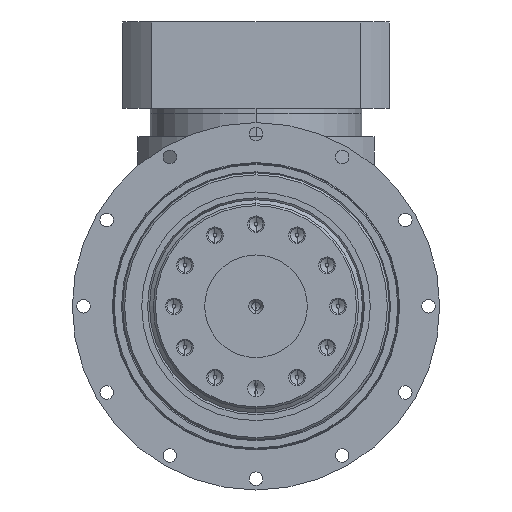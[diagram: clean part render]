
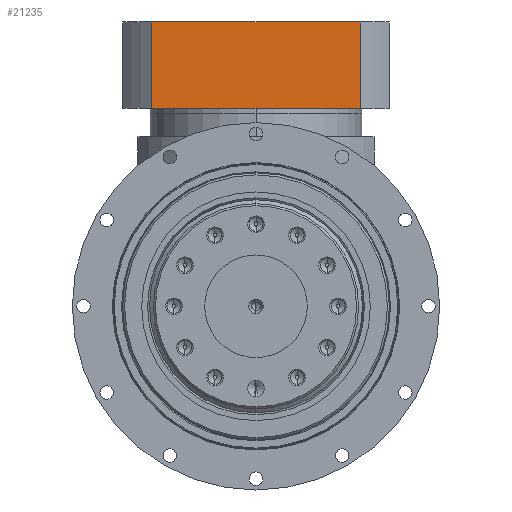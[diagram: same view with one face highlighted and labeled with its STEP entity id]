
A CAD part, left-side view. The second image highlights one B-rep face of the part: STEP entity #21235.
In plain terms, the highlighted planar face has unit normal (-1, 0, 0).
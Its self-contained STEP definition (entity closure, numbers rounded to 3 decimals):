
#1383 = VECTOR ( 'NONE', #5073, 1000. ) ;
#1825 = EDGE_CURVE ( 'NONE', #6613, #7438, #15641, .T. ) ;
#3000 = CARTESIAN_POINT ( 'NONE',  ( 64., 50.806, 138.5 ) ) ;
#3086 = LINE ( 'NONE', #18476, #10947 ) ;
#3507 = LINE ( 'NONE', #10354, #1383 ) ;
#4165 = LINE ( 'NONE', #11781, #25024 ) ;
#5073 = DIRECTION ( 'NONE',  ( 0., 0., 1. ) ) ;
#6613 = VERTEX_POINT ( 'NONE', #3000 ) ;
#7037 = CARTESIAN_POINT ( 'NONE',  ( 64., 65., -139.179 ) ) ;
#7438 = VERTEX_POINT ( 'NONE', #22449 ) ;
#8553 = ORIENTED_EDGE ( 'NONE', *, *, #10120, .T. ) ;
#8883 = DIRECTION ( 'NONE',  ( -1., 0., 0. ) ) ;
#10120 = EDGE_CURVE ( 'NONE', #10228, #18056, #3507, .T. ) ;
#10228 = VERTEX_POINT ( 'NONE', #11206 ) ;
#10354 = CARTESIAN_POINT ( 'NONE',  ( 64., -50.806, 90.5 ) ) ;
#10455 = VECTOR ( 'NONE', #20633, 1000. ) ;
#10947 = VECTOR ( 'NONE', #20427, 1000. ) ;
#11206 = CARTESIAN_POINT ( 'NONE',  ( 64., -50.806, 96.5 ) ) ;
#11781 = CARTESIAN_POINT ( 'NONE',  ( 64., 65., 96.5 ) ) ;
#12979 = PLANE ( 'NONE',  #17877 ) ;
#13179 = ORIENTED_EDGE ( 'NONE', *, *, #23635, .F. ) ;
#14701 = EDGE_CURVE ( 'NONE', #18056, #6613, #3086, .T. ) ;
#15641 = LINE ( 'NONE', #16742, #10455 ) ;
#15875 = ORIENTED_EDGE ( 'NONE', *, *, #14701, .T. ) ;
#16742 = CARTESIAN_POINT ( 'NONE',  ( 64., 50.806, 90.5 ) ) ;
#17877 = AXIS2_PLACEMENT_3D ( 'NONE', #7037, #8883, #20629 ) ;
#18056 = VERTEX_POINT ( 'NONE', #20077 ) ;
#18429 = FACE_OUTER_BOUND ( 'NONE', #21756, .T. ) ;
#18476 = CARTESIAN_POINT ( 'NONE',  ( 64., 0., 138.5 ) ) ;
#19410 = DIRECTION ( 'NONE',  ( 0., 1., 0. ) ) ;
#20077 = CARTESIAN_POINT ( 'NONE',  ( 64., -50.806, 138.5 ) ) ;
#20158 = ORIENTED_EDGE ( 'NONE', *, *, #1825, .T. ) ;
#20427 = DIRECTION ( 'NONE',  ( 0., 1., 0. ) ) ;
#20629 = DIRECTION ( 'NONE',  ( 0., -1., 0. ) ) ;
#20633 = DIRECTION ( 'NONE',  ( 0., 0., -1. ) ) ;
#21235 = ADVANCED_FACE ( 'NONE', ( #18429 ), #12979, .T. ) ;
#21756 = EDGE_LOOP ( 'NONE', ( #20158, #13179, #8553, #15875 ) ) ;
#22449 = CARTESIAN_POINT ( 'NONE',  ( 64., 50.806, 96.5 ) ) ;
#23635 = EDGE_CURVE ( 'NONE', #10228, #7438, #4165, .T. ) ;
#25024 = VECTOR ( 'NONE', #19410, 1000. ) ;
